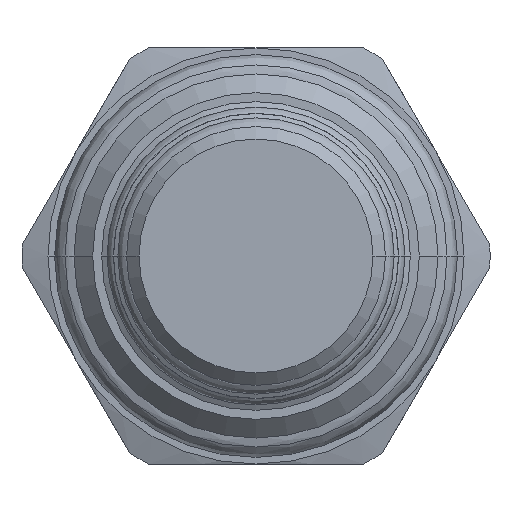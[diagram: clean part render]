
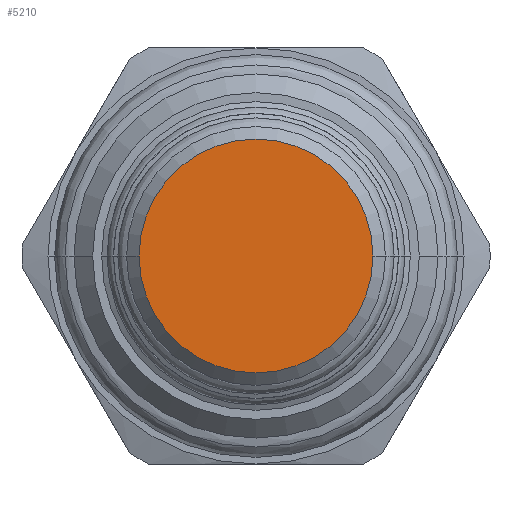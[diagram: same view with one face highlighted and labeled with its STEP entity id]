
A CAD part, front view. The second image highlights one B-rep face of the part: STEP entity #5210.
In plain terms, the highlighted planar face has unit normal (0, -1, 0).
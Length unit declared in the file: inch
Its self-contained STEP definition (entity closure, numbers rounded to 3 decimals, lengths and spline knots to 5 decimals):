
#1720=CARTESIAN_POINT('',(0.,-1.81251,0.));
#1721=DIRECTION('',(0.,-1.,0.));
#1722=DIRECTION('',(-1.,0.,0.));
#1723=AXIS2_PLACEMENT_3D('',#1720,#1721,#1722);
#1738=CARTESIAN_POINT('',(0.,-1.81251,0.));
#1739=DIRECTION('',(0.,1.,0.));
#1740=DIRECTION('',(-1.,0.,0.));
#1741=AXIS2_PLACEMENT_3D('',#1738,#1739,#1740);
#2415=CARTESIAN_POINT('',(-0.281,-1.81251,0.));
#2416=CARTESIAN_POINT('',(0.281,-1.81251,0.));
#2417=VERTEX_POINT('',#2415);
#2418=VERTEX_POINT('',#2416);
#5200=CARTESIAN_POINT('',(0.,-1.81251,0.));
#5201=DIRECTION('',(0.,-1.,0.));
#5202=DIRECTION('',(-1.,0.,0.));
#5203=AXIS2_PLACEMENT_3D('',#5200,#5201,#5202);
#5204=PLANE('',#5203);
#5205=ORIENTED_EDGE('',*,*,#5190,.F.);
#5207=ORIENTED_EDGE('',*,*,#5206,.T.);
#5208=EDGE_LOOP('',(#5205,#5207));
#5209=FACE_OUTER_BOUND('',#5208,.F.);
#5210=ADVANCED_FACE('',(#5209),#5204,.T.);
#1724=CIRCLE('',#1723,0.281);
#1742=CIRCLE('',#1741,0.281);
#5190=EDGE_CURVE('',#2417,#2418,#1724,.T.);
#5206=EDGE_CURVE('',#2417,#2418,#1742,.T.);
